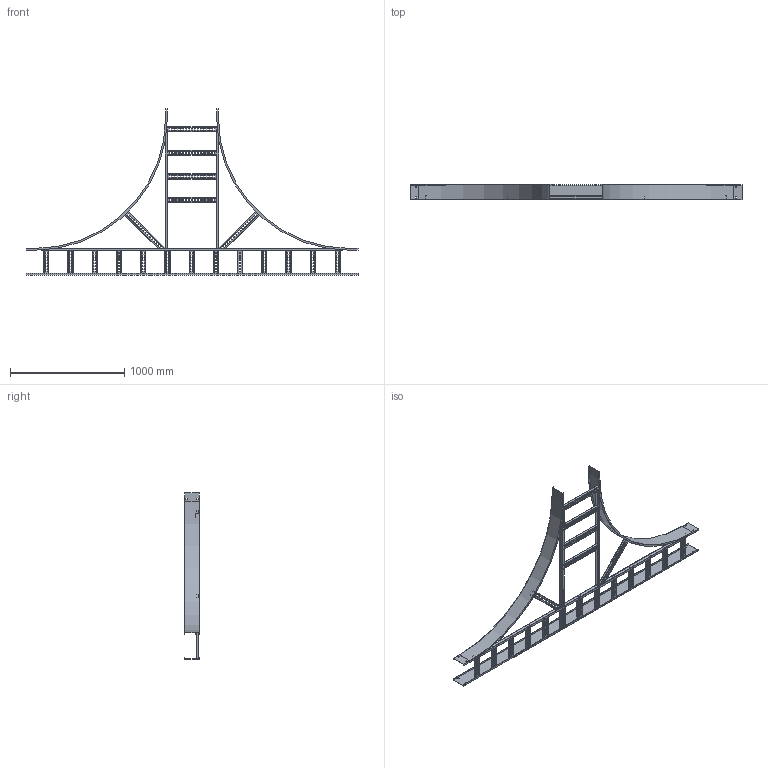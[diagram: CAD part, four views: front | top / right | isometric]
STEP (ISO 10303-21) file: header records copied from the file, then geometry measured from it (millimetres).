
FILE_DESCRIPTION((''),'2;1');
FILE_NAME('AUF50918LET48_ASM','2010-01-28T',('erouzier'),(''),'PRO/ENGINEER BY PARAMETRIC TECHNOLOGY CORPORATION, 2008510','PRO/ENGINEER BY PARAMETRIC TECHNOLOGY CORPORATION, 2008510','');
FILE_SCHEMA(('CONFIG_CONTROL_DESIGN'));
Length unit declared in the file: inch
Products named in the file (21): CDS001320-5-90-45-I; CDS013842-5-114; CDS000495_GEN_AF9; CDS002159L9-P_AF8; CDS002159L9-P_AF9; CDS002159L9-P_AF10; CDS002159L9-P_AF11; CDS002159L9-P; CDS002159L9-P_AF12; CDS002159L9-P_AF13; CDS002159L9-P_AF14; CDS002159L9-P_AF15; CDS000495_GEN_AF10; CDS000495_GEN_AF11; CDS002159L24-P_AF6; CDS002159L24-P_AF7; CDS002159L18-P_AF8; CDS002159L18-P_AF9; CDS002159L18-P_AF10; CDS002159L18-P_AF11; AUF50918LET48_ASM
Assembly tree (25 placements, depth 2):
  AUF50918LET48_ASM
    CDS001320-5-90-45-I  x2
    CDS013842-5-114
    CDS000495_GEN_AF9
    CDS002159L9-P_AF8
    CDS002159L9-P_AF9
    CDS002159L9-P_AF10
    CDS002159L9-P_AF11
    CDS002159L9-P  x5
    CDS002159L9-P_AF12
    CDS002159L9-P_AF13
    CDS002159L9-P_AF14
    CDS002159L9-P_AF15
    CDS000495_GEN_AF10
    CDS000495_GEN_AF11
    CDS002159L24-P_AF6
    CDS002159L24-P_AF7
    CDS002159L18-P_AF8
    CDS002159L18-P_AF9
    CDS002159L18-P_AF10
    CDS002159L18-P_AF11
Bounding box: 2900.68 x 129.03 x 1452.63 mm (x, y, z)
Volume: 3995723.1 mm3; surface area: 4075270 mm2
Topology: 25 solids, 25 shells, 2206 faces, 6468 edges, 4312 vertices
Faces by surface type: plane 1235, cylinder 971
Entity records: 62327 total; most frequent: CARTESIAN_POINT 10970, ORIENTED_EDGE 10728, DIRECTION 10690, EDGE_CURVE 5364, VECTOR 3742, LINE 3742, VERTEX_POINT 3576, AXIS2_PLACEMENT_3D 3474
